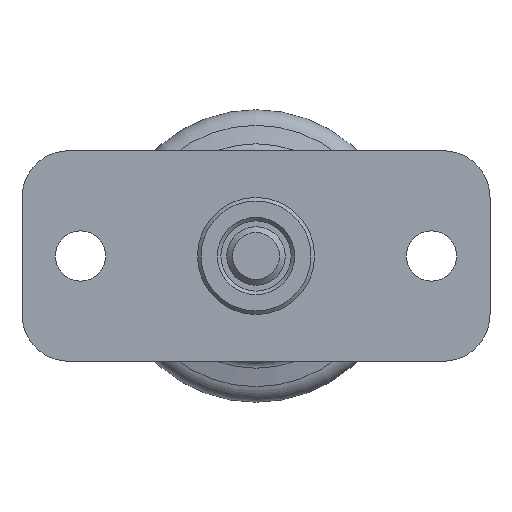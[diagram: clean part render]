
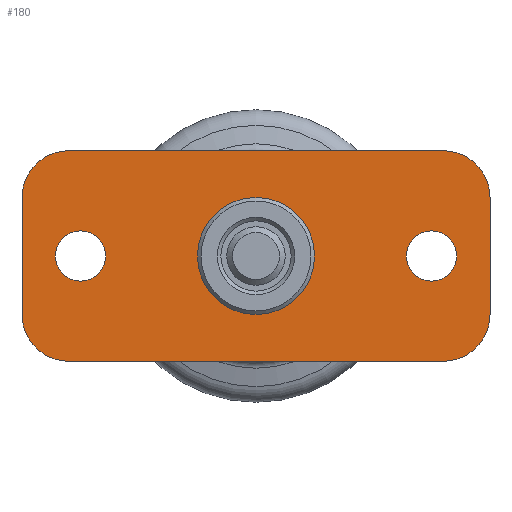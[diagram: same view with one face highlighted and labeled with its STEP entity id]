
A CAD part, front view. The second image highlights one B-rep face of the part: STEP entity #180.
In plain terms, the highlighted planar face has unit normal (0, -1, 0).
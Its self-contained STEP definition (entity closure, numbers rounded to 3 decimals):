
#180 = ADVANCED_FACE( '', ( #278, #279, #280, #281 ), #282, .F. );
#278 = FACE_BOUND( '', #478, .T. );
#279 = FACE_BOUND( '', #479, .T. );
#280 = FACE_BOUND( '', #480, .T. );
#281 = FACE_OUTER_BOUND( '', #481, .T. );
#282 = PLANE( '', #482 );
#478 = EDGE_LOOP( '', ( #732 ) );
#479 = EDGE_LOOP( '', ( #733 ) );
#480 = EDGE_LOOP( '', ( #734 ) );
#481 = EDGE_LOOP( '', ( #735, #736, #737, #738, #739, #740, #741, #742 ) );
#482 = AXIS2_PLACEMENT_3D( '', #743, #744, #745 );
#732 = ORIENTED_EDGE( '', *, *, #1251, .F. );
#733 = ORIENTED_EDGE( '', *, *, #1252, .F. );
#734 = ORIENTED_EDGE( '', *, *, #1253, .F. );
#735 = ORIENTED_EDGE( '', *, *, #1254, .F. );
#736 = ORIENTED_EDGE( '', *, *, #1255, .F. );
#737 = ORIENTED_EDGE( '', *, *, #1256, .F. );
#738 = ORIENTED_EDGE( '', *, *, #1257, .F. );
#739 = ORIENTED_EDGE( '', *, *, #1258, .F. );
#740 = ORIENTED_EDGE( '', *, *, #1259, .F. );
#741 = ORIENTED_EDGE( '', *, *, #1260, .F. );
#742 = ORIENTED_EDGE( '', *, *, #1261, .F. );
#743 = CARTESIAN_POINT( '', ( -16., 0., 5. ) );
#744 = DIRECTION( '', ( 0., 1., 0. ) );
#745 = DIRECTION( '', ( 0., 0., 1. ) );
#1251 = EDGE_CURVE( '', #1436, #1436, #1437, .T. );
#1252 = EDGE_CURVE( '', #1438, #1438, #1439, .T. );
#1253 = EDGE_CURVE( '', #1440, #1440, #1441, .T. );
#1254 = EDGE_CURVE( '', #1442, #1443, #1444, .T. );
#1255 = EDGE_CURVE( '', #1445, #1442, #1446, .T. );
#1256 = EDGE_CURVE( '', #1447, #1445, #1448, .T. );
#1257 = EDGE_CURVE( '', #1449, #1447, #1450, .T. );
#1258 = EDGE_CURVE( '', #1451, #1449, #1452, .T. );
#1259 = EDGE_CURVE( '', #1453, #1451, #1454, .T. );
#1260 = EDGE_CURVE( '', #1455, #1453, #1456, .T. );
#1261 = EDGE_CURVE( '', #1443, #1455, #1457, .T. );
#1436 = VERTEX_POINT( '', #1760 );
#1437 = CIRCLE( '', #1761, 2.15 );
#1438 = VERTEX_POINT( '', #1762 );
#1439 = CIRCLE( '', #1763, 2.15 );
#1440 = VERTEX_POINT( '', #1764 );
#1441 = CIRCLE( '', #1765, 5. );
#1442 = VERTEX_POINT( '', #1766 );
#1443 = VERTEX_POINT( '', #1767 );
#1444 = LINE( '', #1768, #1769 );
#1445 = VERTEX_POINT( '', #1770 );
#1446 = CIRCLE( '', #1771, 4. );
#1447 = VERTEX_POINT( '', #1772 );
#1448 = LINE( '', #1773, #1774 );
#1449 = VERTEX_POINT( '', #1775 );
#1450 = CIRCLE( '', #1776, 4. );
#1451 = VERTEX_POINT( '', #1777 );
#1452 = LINE( '', #1778, #1779 );
#1453 = VERTEX_POINT( '', #1780 );
#1454 = CIRCLE( '', #1781, 4. );
#1455 = VERTEX_POINT( '', #1782 );
#1456 = LINE( '', #1783, #1784 );
#1457 = CIRCLE( '', #1785, 4. );
#1760 = CARTESIAN_POINT( '', ( 15., 0., -2.15 ) );
#1761 = AXIS2_PLACEMENT_3D( '', #2201, #2202, #2203 );
#1762 = CARTESIAN_POINT( '', ( -15., 0., -2.15 ) );
#1763 = AXIS2_PLACEMENT_3D( '', #2204, #2205, #2206 );
#1764 = CARTESIAN_POINT( '', ( 0., 0., -5. ) );
#1765 = AXIS2_PLACEMENT_3D( '', #2207, #2208, #2209 );
#1766 = CARTESIAN_POINT( '', ( -20., 0., -5. ) );
#1767 = CARTESIAN_POINT( '', ( -20., 0., 5. ) );
#1768 = CARTESIAN_POINT( '', ( -20., 0., -5. ) );
#1769 = VECTOR( '', #2210, 1000. );
#1770 = CARTESIAN_POINT( '', ( -16., 0., -9. ) );
#1771 = AXIS2_PLACEMENT_3D( '', #2211, #2212, #2213 );
#1772 = CARTESIAN_POINT( '', ( 16., 0., -9. ) );
#1773 = CARTESIAN_POINT( '', ( 16., 0., -9. ) );
#1774 = VECTOR( '', #2214, 1000. );
#1775 = CARTESIAN_POINT( '', ( 20., 0., -5. ) );
#1776 = AXIS2_PLACEMENT_3D( '', #2215, #2216, #2217 );
#1777 = CARTESIAN_POINT( '', ( 20., 0., 5. ) );
#1778 = CARTESIAN_POINT( '', ( 20., 0., 5. ) );
#1779 = VECTOR( '', #2218, 1000. );
#1780 = CARTESIAN_POINT( '', ( 16., 0., 9. ) );
#1781 = AXIS2_PLACEMENT_3D( '', #2219, #2220, #2221 );
#1782 = CARTESIAN_POINT( '', ( -16., 0., 9. ) );
#1783 = CARTESIAN_POINT( '', ( -16., 0., 9. ) );
#1784 = VECTOR( '', #2222, 1000. );
#1785 = AXIS2_PLACEMENT_3D( '', #2223, #2224, #2225 );
#2201 = CARTESIAN_POINT( '', ( 15., 0., 0. ) );
#2202 = DIRECTION( '', ( 0., -1., 0. ) );
#2203 = DIRECTION( '', ( 0., 0., -1. ) );
#2204 = CARTESIAN_POINT( '', ( -15., 0., 0. ) );
#2205 = DIRECTION( '', ( 0., -1., 0. ) );
#2206 = DIRECTION( '', ( 0., 0., -1. ) );
#2207 = CARTESIAN_POINT( '', ( 0., 0., 0. ) );
#2208 = DIRECTION( '', ( 0., -1., 0. ) );
#2209 = DIRECTION( '', ( 0., 0., -1. ) );
#2210 = DIRECTION( '', ( 0., 0., 1. ) );
#2211 = CARTESIAN_POINT( '', ( -16., 0., -5. ) );
#2212 = DIRECTION( '', ( 0., 1., 0. ) );
#2213 = DIRECTION( '', ( 1., 0., 0. ) );
#2214 = DIRECTION( '', ( -1., 0., 0. ) );
#2215 = CARTESIAN_POINT( '', ( 16., 0., -5. ) );
#2216 = DIRECTION( '', ( 0., 1., 0. ) );
#2217 = DIRECTION( '', ( 1., 0., 0. ) );
#2218 = DIRECTION( '', ( 0., 0., -1. ) );
#2219 = CARTESIAN_POINT( '', ( 16., 0., 5. ) );
#2220 = DIRECTION( '', ( 0., 1., 0. ) );
#2221 = DIRECTION( '', ( 1., 0., 0. ) );
#2222 = DIRECTION( '', ( 1., 0., 0. ) );
#2223 = CARTESIAN_POINT( '', ( -16., 0., 5. ) );
#2224 = DIRECTION( '', ( 0., 1., 0. ) );
#2225 = DIRECTION( '', ( 1., 0., 0. ) );
